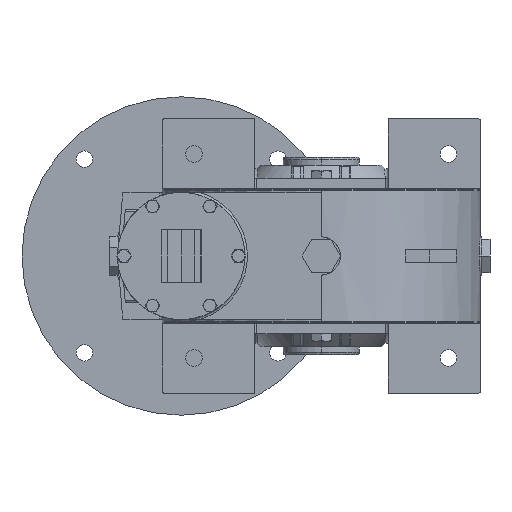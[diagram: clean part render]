
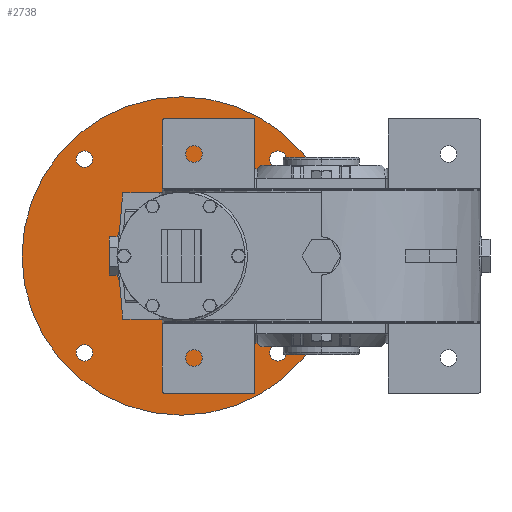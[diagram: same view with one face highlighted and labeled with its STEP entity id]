
A CAD part, left-side view. The second image highlights one B-rep face of the part: STEP entity #2738.
In plain terms, the highlighted planar face has unit normal (-1, 0, 0).
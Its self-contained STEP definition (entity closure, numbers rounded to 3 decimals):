
#866 = ORIENTED_EDGE ( 'NONE', *, *, #2503, .T. ) ;
#2503 = EDGE_CURVE ( 'NONE', #2504, #2749, #31145, .T. ) ;
#2504 = VERTEX_POINT ( 'NONE', #31023 ) ;
#2514 = ORIENTED_EDGE ( 'NONE', *, *, #2732, .T. ) ;
#2517 = ORIENTED_EDGE ( 'NONE', *, *, #2518, .T. ) ;
#2518 = EDGE_CURVE ( 'NONE', #2812, #2733, #31301, .T. ) ;
#2519 = EDGE_LOOP ( 'NONE', ( #2522, #2525 ) ) ;
#2522 = ORIENTED_EDGE ( 'NONE', *, *, #2523, .T. ) ;
#2523 = EDGE_CURVE ( 'NONE', #2691, #2690, #31275, .T. ) ;
#2525 = ORIENTED_EDGE ( 'NONE', *, *, #2689, .T. ) ;
#2527 = EDGE_LOOP ( 'NONE', ( #2528, #2531 ) ) ;
#2528 = ORIENTED_EDGE ( 'NONE', *, *, #2589, .T. ) ;
#2531 = ORIENTED_EDGE ( 'NONE', *, *, #2532, .T. ) ;
#2532 = EDGE_CURVE ( 'NONE', #2705, #2590, #31228, .T. ) ;
#2534 = EDGE_LOOP ( 'NONE', ( #866, #2992 ) ) ;
#2589 = EDGE_CURVE ( 'NONE', #2590, #2705, #31469, .T. ) ;
#2590 = VERTEX_POINT ( 'NONE', #31330 ) ;
#2605 = EDGE_CURVE ( 'NONE', #2800, #2799, #31418, .T. ) ;
#2689 = EDGE_CURVE ( 'NONE', #2690, #2691, #32241, .T. ) ;
#2690 = VERTEX_POINT ( 'NONE', #32244 ) ;
#2691 = VERTEX_POINT ( 'NONE', #32285 ) ;
#2705 = VERTEX_POINT ( 'NONE', #32612 ) ;
#2732 = EDGE_CURVE ( 'NONE', #2733, #2812, #32511, .T. ) ;
#2733 = VERTEX_POINT ( 'NONE', #32506 ) ;
#2738 = ADVANCED_FACE ( 'NONE', ( #32409, #32408, #32405, #32413, #32412, #32411 ), #32503, .T. ) ;
#2739 = EDGE_LOOP ( 'NONE', ( #2514, #2517 ) ) ;
#2749 = VERTEX_POINT ( 'NONE', #32351 ) ;
#2755 = VERTEX_POINT ( 'NONE', #33816 ) ;
#2758 = EDGE_CURVE ( 'NONE', #2759, #2755, #33812, .T. ) ;
#2759 = VERTEX_POINT ( 'NONE', #33541 ) ;
#2799 = VERTEX_POINT ( 'NONE', #33613 ) ;
#2800 = VERTEX_POINT ( 'NONE', #33612 ) ;
#2812 = VERTEX_POINT ( 'NONE', #33685 ) ;
#2897 = ORIENTED_EDGE ( 'NONE', *, *, #2605, .T. ) ;
#2898 = ORIENTED_EDGE ( 'NONE', *, *, #2930, .T. ) ;
#2929 = ORIENTED_EDGE ( 'NONE', *, *, #2995, .T. ) ;
#2930 = EDGE_CURVE ( 'NONE', #2799, #2800, #34199, .T. ) ;
#2992 = ORIENTED_EDGE ( 'NONE', *, *, #2993, .T. ) ;
#2993 = EDGE_CURVE ( 'NONE', #2749, #2504, #35586, .T. ) ;
#2994 = EDGE_LOOP ( 'NONE', ( #2897, #2898 ) ) ;
#2995 = EDGE_CURVE ( 'NONE', #2755, #2759, #35703, .T. ) ;
#3073 = EDGE_LOOP ( 'NONE', ( #3074, #2929 ) ) ;
#3074 = ORIENTED_EDGE ( 'NONE', *, *, #2758, .T. ) ;
#31023 = CARTESIAN_POINT ( 'NONE',  ( 135., 27.486, -76.014 ) ) ;
#31025 = DIRECTION ( 'NONE',  ( 0., -1., 0. ) ) ;
#31141 = DIRECTION ( 'NONE',  ( 1., 0., 0. ) ) ;
#31142 = CARTESIAN_POINT ( 'NONE',  ( 135., 33.986, -76.014 ) ) ;
#31143 = AXIS2_PLACEMENT_3D ( 'NONE', #31142, #31141, #31025 ) ;
#31145 = CIRCLE ( 'NONE', #31143, 6.5 ) ;
#31222 = DIRECTION ( 'NONE',  ( 0., -1., 0. ) ) ;
#31223 = DIRECTION ( 'NONE',  ( 1., 0., 0. ) ) ;
#31225 = CARTESIAN_POINT ( 'NONE',  ( 135., 33.986, 76.014 ) ) ;
#31226 = AXIS2_PLACEMENT_3D ( 'NONE', #31225, #31223, #31222 ) ;
#31228 = CIRCLE ( 'NONE', #31226, 6.5 ) ;
#31233 = DIRECTION ( 'NONE',  ( 0., -1., 0. ) ) ;
#31235 = DIRECTION ( 'NONE',  ( 1., 0., 0. ) ) ;
#31238 = AXIS2_PLACEMENT_3D ( 'NONE', #31278, #31235, #31233 ) ;
#31275 = CIRCLE ( 'NONE', #31238, 52.5 ) ;
#31278 = CARTESIAN_POINT ( 'NONE',  ( 135., 110., 0. ) ) ;
#31296 = DIRECTION ( 'NONE',  ( 0., -1., 0. ) ) ;
#31297 = DIRECTION ( 'NONE',  ( -1., 0., 0. ) ) ;
#31298 = CARTESIAN_POINT ( 'NONE',  ( 135., 110., 0. ) ) ;
#31299 = AXIS2_PLACEMENT_3D ( 'NONE', #31298, #31297, #31296 ) ;
#31301 = CIRCLE ( 'NONE', #31299, 125. ) ;
#31330 = CARTESIAN_POINT ( 'NONE',  ( 135., 27.486, 76.014 ) ) ;
#31331 = DIRECTION ( 'NONE',  ( 0., -1., 0. ) ) ;
#31332 = DIRECTION ( 'NONE',  ( 1., 0., 0. ) ) ;
#31333 = CARTESIAN_POINT ( 'NONE',  ( 135., 33.986, 76.014 ) ) ;
#31334 = AXIS2_PLACEMENT_3D ( 'NONE', #31333, #31332, #31331 ) ;
#31411 = DIRECTION ( 'NONE',  ( 0., -1., 0. ) ) ;
#31412 = DIRECTION ( 'NONE',  ( 1., 0., 0. ) ) ;
#31413 = CARTESIAN_POINT ( 'NONE',  ( 135., 186.014, 76.014 ) ) ;
#31414 = AXIS2_PLACEMENT_3D ( 'NONE', #31413, #31412, #31411 ) ;
#31418 = CIRCLE ( 'NONE', #31414, 6.5 ) ;
#31469 = CIRCLE ( 'NONE', #31334, 6.5 ) ;
#32241 = CIRCLE ( 'NONE', #32306, 52.5 ) ;
#32244 = CARTESIAN_POINT ( 'NONE',  ( 135., 162.5, 0. ) ) ;
#32249 = DIRECTION ( 'NONE',  ( 0., -1., 0. ) ) ;
#32285 = CARTESIAN_POINT ( 'NONE',  ( 135., 57.5, 0. ) ) ;
#32306 = AXIS2_PLACEMENT_3D ( 'NONE', #32376, #32379, #32249 ) ;
#32351 = CARTESIAN_POINT ( 'NONE',  ( 135., 40.486, -76.014 ) ) ;
#32376 = CARTESIAN_POINT ( 'NONE',  ( 135., 110., 0. ) ) ;
#32379 = DIRECTION ( 'NONE',  ( 1., 0., 0. ) ) ;
#32405 = FACE_BOUND ( 'NONE', #2527, .T. ) ;
#32408 = FACE_BOUND ( 'NONE', #2519, .T. ) ;
#32409 = FACE_OUTER_BOUND ( 'NONE', #2739, .T. ) ;
#32411 = FACE_BOUND ( 'NONE', #3073, .T. ) ;
#32412 = FACE_BOUND ( 'NONE', #2994, .T. ) ;
#32413 = FACE_BOUND ( 'NONE', #2534, .T. ) ;
#32494 = DIRECTION ( 'NONE',  ( 0., -1., 0. ) ) ;
#32495 = DIRECTION ( 'NONE',  ( -1., 0., 0. ) ) ;
#32496 = CARTESIAN_POINT ( 'NONE',  ( 135., 110., 88.75 ) ) ;
#32500 = AXIS2_PLACEMENT_3D ( 'NONE', #32496, #32495, #32494 ) ;
#32503 = PLANE ( 'NONE',  #32500 ) ;
#32506 = CARTESIAN_POINT ( 'NONE',  ( 135., -15., 0. ) ) ;
#32507 = DIRECTION ( 'NONE',  ( 0., -1., 0. ) ) ;
#32508 = DIRECTION ( 'NONE',  ( -1., 0., 0. ) ) ;
#32509 = CARTESIAN_POINT ( 'NONE',  ( 135., 110., 0. ) ) ;
#32510 = AXIS2_PLACEMENT_3D ( 'NONE', #32509, #32508, #32507 ) ;
#32511 = CIRCLE ( 'NONE', #32510, 125. ) ;
#32612 = CARTESIAN_POINT ( 'NONE',  ( 135., 40.486, 76.014 ) ) ;
#33541 = CARTESIAN_POINT ( 'NONE',  ( 135., 179.514, -76.014 ) ) ;
#33542 = DIRECTION ( 'NONE',  ( 0., -1., 0. ) ) ;
#33612 = CARTESIAN_POINT ( 'NONE',  ( 135., 179.514, 76.014 ) ) ;
#33613 = CARTESIAN_POINT ( 'NONE',  ( 135., 192.514, 76.014 ) ) ;
#33685 = CARTESIAN_POINT ( 'NONE',  ( 135., 235., 0. ) ) ;
#33808 = DIRECTION ( 'NONE',  ( 1., 0., 0. ) ) ;
#33810 = CARTESIAN_POINT ( 'NONE',  ( 135., 186.014, -76.014 ) ) ;
#33811 = AXIS2_PLACEMENT_3D ( 'NONE', #33810, #33808, #33542 ) ;
#33812 = CIRCLE ( 'NONE', #33811, 6.5 ) ;
#33816 = CARTESIAN_POINT ( 'NONE',  ( 135., 192.514, -76.014 ) ) ;
#34192 = DIRECTION ( 'NONE',  ( 0., -1., 0. ) ) ;
#34194 = DIRECTION ( 'NONE',  ( 1., 0., 0. ) ) ;
#34195 = CARTESIAN_POINT ( 'NONE',  ( 135., 186.014, 76.014 ) ) ;
#34197 = AXIS2_PLACEMENT_3D ( 'NONE', #34195, #34194, #34192 ) ;
#34199 = CIRCLE ( 'NONE', #34197, 6.5 ) ;
#35582 = DIRECTION ( 'NONE',  ( 0., -1., 0. ) ) ;
#35583 = DIRECTION ( 'NONE',  ( 1., 0., 0. ) ) ;
#35584 = CARTESIAN_POINT ( 'NONE',  ( 135., 33.986, -76.014 ) ) ;
#35585 = AXIS2_PLACEMENT_3D ( 'NONE', #35584, #35583, #35582 ) ;
#35586 = CIRCLE ( 'NONE', #35585, 6.5 ) ;
#35588 = CARTESIAN_POINT ( 'NONE',  ( 135., 186.014, -76.014 ) ) ;
#35700 = DIRECTION ( 'NONE',  ( 0., -1., 0. ) ) ;
#35701 = DIRECTION ( 'NONE',  ( 1., 0., 0. ) ) ;
#35702 = AXIS2_PLACEMENT_3D ( 'NONE', #35588, #35701, #35700 ) ;
#35703 = CIRCLE ( 'NONE', #35702, 6.5 ) ;
